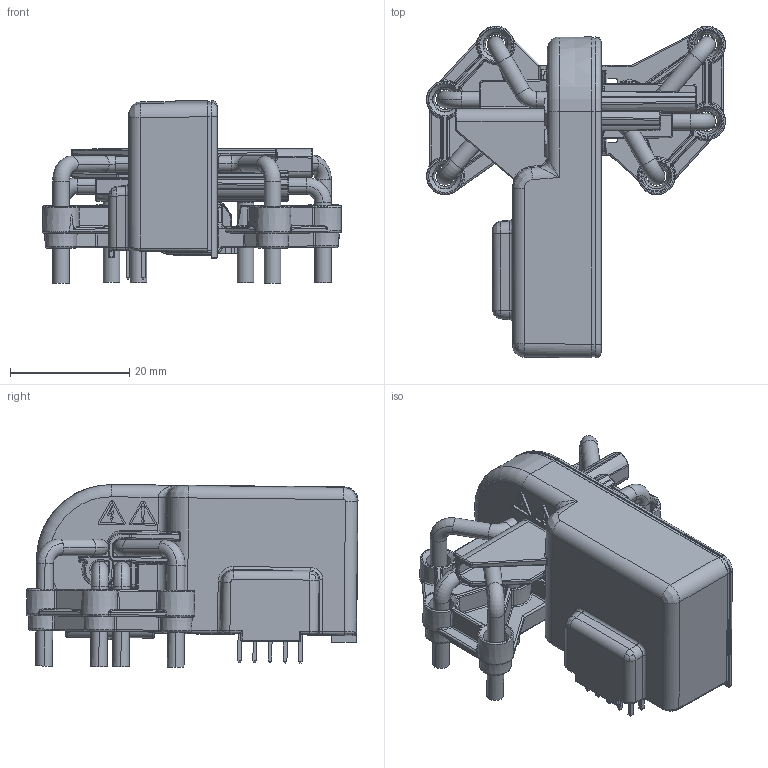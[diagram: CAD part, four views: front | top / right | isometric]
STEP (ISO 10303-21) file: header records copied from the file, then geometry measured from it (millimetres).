
FILE_DESCRIPTION(('Creo Elements/Direct Modeling STEP Export'),'2;1');
FILE_NAME('CDSR-NP.stp','2020-04-02T14:23:09',(''),(''),'Creo Elements/Direct Modeling STEP processor for AP214 (Solid Model)','Creo Elements/Direct Modeling 20.1 10-Mar-2018 (C) Parametric Technology GmbH','');
FILE_SCHEMA(('AUTOMOTIVE_DESIGN { 1 0 10303 214 1 1 1 1 }'));
Products named in the file (2): BBox_B_20112019
Assembly tree (1 placements, depth 2):
  BBox_B_20112019
    BBox_B_20112019
Bounding box: 50.22 x 55.73 x 30.7 mm (x, y, z)
Volume: 20948.6 mm3; surface area: 13275.5 mm2
Topology: 1 solids, 1 shells, 1964 faces, 4974 edges, 2972 vertices
Faces by surface type: bspline 598, cylinder 586, plane 460, torus 172, cone 113, sphere 34, extrusion 1
Entity records: 118868 total; most frequent: CARTESIAN_POINT 78554, ORIENTED_EDGE 9830, DIRECTION 5861, EDGE_CURVE 4915, VERTEX_POINT 2972, AXIS2_PLACEMENT_3D 2106, EDGE_LOOP 2019, FACE_OUTER_BOUND 1964
